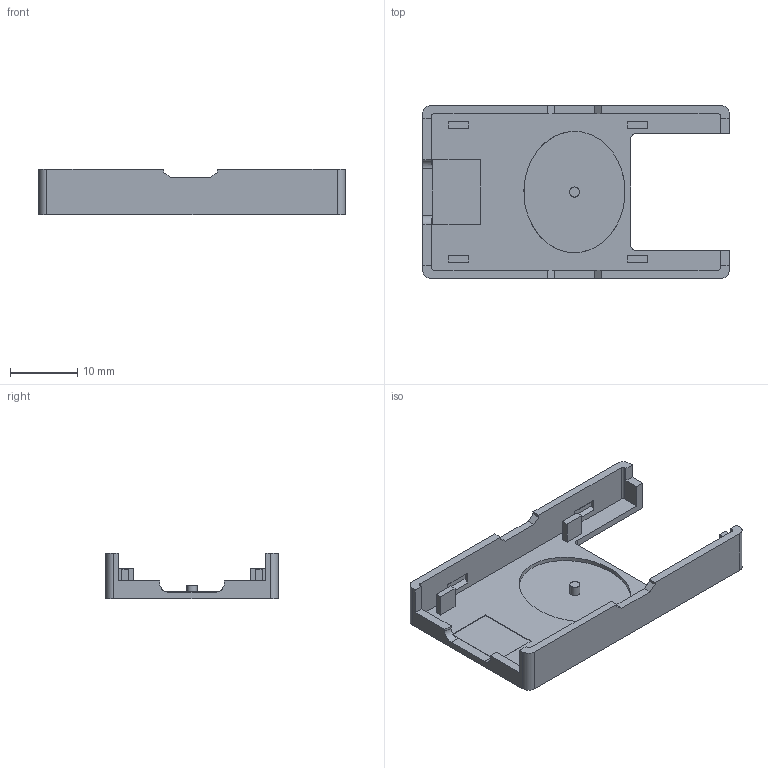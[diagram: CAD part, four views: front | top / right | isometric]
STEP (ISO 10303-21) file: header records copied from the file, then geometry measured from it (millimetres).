
FILE_DESCRIPTION(('Open CASCADE Model'),'2;1');
FILE_NAME('Open CASCADE Shape Model','2026-11-25T16:21:51',('Author'),( 'Open CASCADE'),'Open CASCADE STEP processor 7.9','Open CASCADE 7.9' ,'Unknown');
FILE_SCHEMA(('AUTOMOTIVE_DESIGN { 1 0 10303 214 1 1 1 1 }'));
Length unit declared in the file: millimetre
Products named in the file (1): Open CASCADE STEP translator 7.9 2
Bounding box: 45.45 x 25.6 x 6.7 mm (x, y, z)
Volume: 1464.5 mm3; surface area: 3260.3 mm2
Topology: 1 solids, 1 shells, 104 faces, 273 edges, 182 vertices
Faces by surface type: plane 89, cylinder 14, extrusion 1
Full cylindrical faces by diameter (mm): 1.2 x1, 1.5 x1
Entity records: 7264 total; most frequent: CARTESIAN_POINT 1715, DIRECTION 1035, VECTOR 755, LINE 754, ORIENTED_EDGE 546, PCURVE 546, DEFINITIONAL_REPRESENTATION 546, EDGE_CURVE 273
